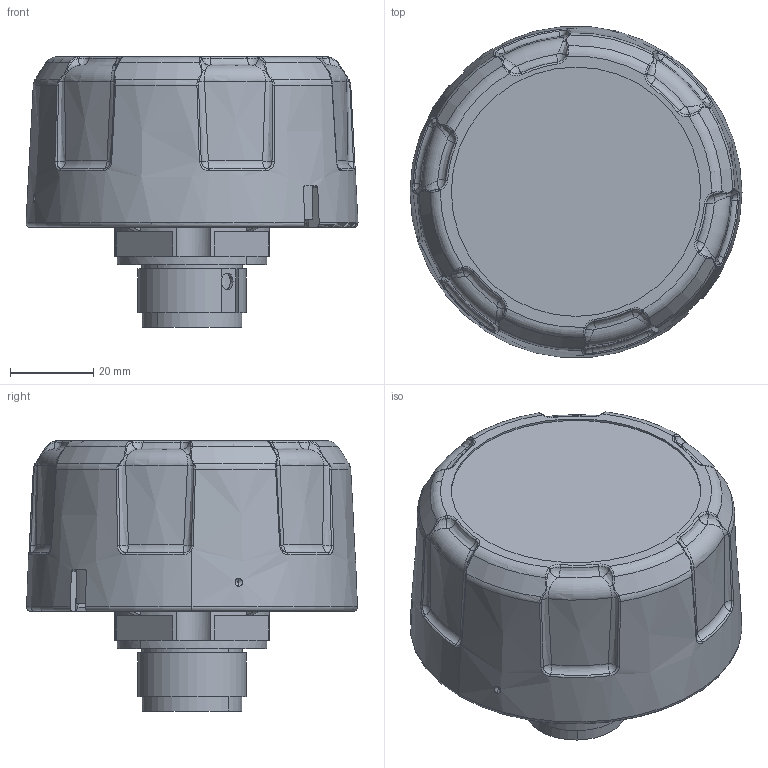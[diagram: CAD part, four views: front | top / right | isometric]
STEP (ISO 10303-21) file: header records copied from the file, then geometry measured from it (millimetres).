
FILE_DESCRIPTION((''),'2;1');
FILE_NAME('30960001_388213','2017-09-26T',('f.kollmann'),(''),'PRO/ENGINEER BY PARAMETRIC TECHNOLOGY CORPORATION, 2015110','PRO/ENGINEER BY PARAMETRIC TECHNOLOGY CORPORATION, 2015110','');
FILE_SCHEMA(('AUTOMOTIVE_DESIGN { 1 0 10303 214 1 1 1 1 }'));
Length unit declared in the file: millimetre
Products named in the file (1): 30960001_388213
Bounding box: 79.89 x 79.62 x 65 mm (x, y, z)
Volume: 197863.3 mm3; surface area: 22890.4 mm2
Topology: 1 solids, 1 shells, 421 faces, 1087 edges, 665 vertices
Faces by surface type: bspline 178, plane 95, cylinder 65, cone 43, torus 28, sphere 12
Entity records: 23222 total; most frequent: CARTESIAN_POINT 10301, ORIENTED_EDGE 2174, DIRECTION 1245, PRESENTATION_STYLE_ASSIGNMENT 1125, STYLED_ITEM 1088, CURVE_STYLE 1087, EDGE_CURVE 1087, VERTEX_POINT 665
